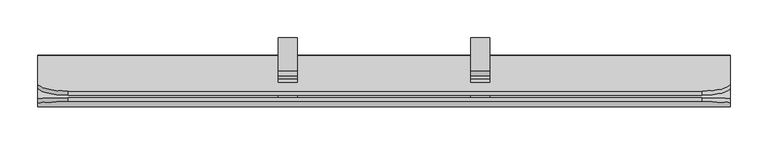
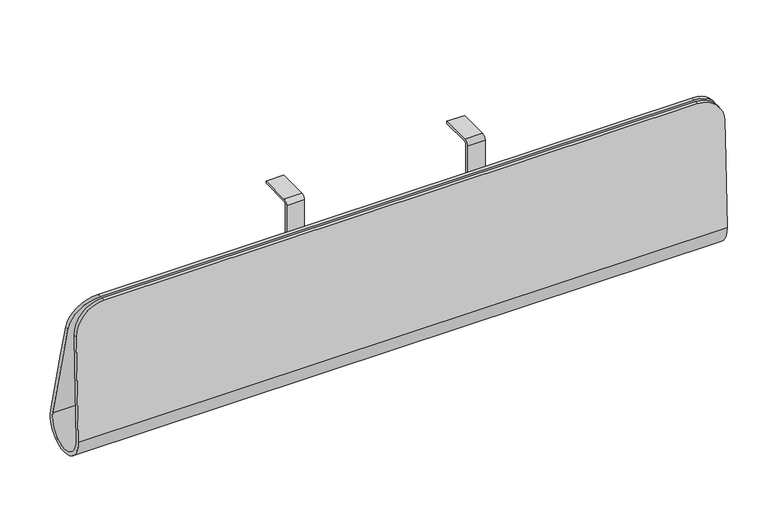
"""IFC4 building model written with IfcOpenShell, lengths in millimetres: furniture geometry, Steelcase Turnstone - Bivi - Soft Cable Drop : 36W x 11H."""

from ifc_helpers import new_model, si_unit, point, frame, frame_2d, origin, place, context, project, spatial, polyline, circle_curve, ellipse_curve, trimmed, segment, composite_curve, outline, extrude, source, transform, mapped, element, save
from ifc_brep_helpers import plane_surface, cylinder_surface, revolved_surface, advanced_brep


def furniture_a9377d5e(model_context):
    return source(origin(), model_context, "Body", "SolidModel", [
        extrude(outline(composite_curve([segment(polyline([(-33.3815971, 695.5738947), (-76.9351284, 695.5738947)]), True, "CONTINUOUS"), segment(trimmed(circle_curve(frame_2d((-76.9351284, 692.219915)), 3.3539797), [point((-76.9351284, 695.5738947))], [point((-80.2891081, 692.219915))], True, "CARTESIAN"), True, "CONTINUOUS"), segment(polyline([(-80.2891081, 692.219915), (-80.2891081, 626.9360785)]), True, "CONTINUOUS"), segment(trimmed(circle_curve(frame_2d((-86.6323983, 626.9360785)), 6.3432901), [point((-80.2891081, 626.9360785))], [point((-86.6323983, 620.5927883))], False, "CARTESIAN"), True, "CONTINUOUS"), segment(polyline([(-86.6323983, 620.5927883), (-100.5256574, 620.5927883)]), True, "CONTINUOUS"), segment(trimmed(circle_curve(frame_2d((-100.5256574, 629.9560246)), 9.3632363), [point((-100.5256574, 620.5927883))], [point((-107.4309733, 623.6325124))], False, "CARTESIAN"), True, "CONTINUOUS"), segment(polyline([(-107.4309733, 623.6325124), (-117.7964919, 641.5861173), (-114.7522656, 643.3437021), (-104.386747, 625.3900972)]), True, "CONTINUOUS"), segment(trimmed(circle_curve(frame_2d((-101.6045306, 626.9964106)), 3.2126268), [point((-104.386747, 625.3900972))], [point((-101.614696, 623.7837999))], True, "CARTESIAN"), True, "CONTINUOUS"), segment(polyline([(-101.614696, 623.7837999), (-87.5440565, 623.7837999)]), True, "CONTINUOUS"), segment(trimmed(circle_curve(frame_2d((-87.5440565, 627.8477185)), 4.0639185), [point((-87.5440565, 623.7837999))], [point((-83.4801379, 627.8477185))], True, "CARTESIAN"), True, "CONTINUOUS"), segment(polyline([(-83.4801379, 627.8477185), (-83.4801379, 692.4149063)]), True, "CONTINUOUS"), segment(trimmed(circle_curve(frame_2d((-77.1301379, 692.4149063)), 6.35), [point((-83.4801379, 692.4149063))], [point((-77.1301379, 698.7649063))], False, "CARTESIAN"), True, "CONTINUOUS"), segment(polyline([(-77.1301379, 698.7649063), (-33.3815971, 698.7649063), (-33.3815971, 695.5738947)]), True, "CONTINUOUS")], self_intersect=False)), frame((572.0103547, 0.0, 0.0), z_axis=(1.0, 0.0, 0.0), x_axis=(0.0, 1.0, 0.0)), (0.0, 0.0, 1.0), 25.061043),
        extrude(outline(composite_curve([segment(polyline([(-33.3815971, 695.5738947), (-76.9351284, 695.5738947)]), True, "CONTINUOUS"), segment(trimmed(circle_curve(frame_2d((-76.9351284, 692.219915)), 3.3539797), [point((-76.9351284, 695.5738947))], [point((-80.2891081, 692.219915))], True, "CARTESIAN"), True, "CONTINUOUS"), segment(polyline([(-80.2891081, 692.219915), (-80.2891081, 626.9360785)]), True, "CONTINUOUS"), segment(trimmed(circle_curve(frame_2d((-86.6323983, 626.9360785)), 6.3432901), [point((-80.2891081, 626.9360785))], [point((-86.6323983, 620.5927883))], False, "CARTESIAN"), True, "CONTINUOUS"), segment(polyline([(-86.6323983, 620.5927883), (-100.5256574, 620.5927883)]), True, "CONTINUOUS"), segment(trimmed(circle_curve(frame_2d((-100.5256574, 629.9560246)), 9.3632363), [point((-100.5256574, 620.5927883))], [point((-107.4309733, 623.6325124))], False, "CARTESIAN"), True, "CONTINUOUS"), segment(polyline([(-107.4309733, 623.6325124), (-117.7964919, 641.5861173), (-114.7522656, 643.3437021), (-104.386747, 625.3900972)]), True, "CONTINUOUS"), segment(trimmed(circle_curve(frame_2d((-101.6045306, 626.9964106)), 3.2126268), [point((-104.386747, 625.3900972))], [point((-101.614696, 623.7837999))], True, "CARTESIAN"), True, "CONTINUOUS"), segment(polyline([(-101.614696, 623.7837999), (-87.5440565, 623.7837999)]), True, "CONTINUOUS"), segment(trimmed(circle_curve(frame_2d((-87.5440565, 627.8477185)), 4.0639185), [point((-87.5440565, 623.7837999))], [point((-83.4801379, 627.8477185))], True, "CARTESIAN"), True, "CONTINUOUS"), segment(polyline([(-83.4801379, 627.8477185), (-83.4801379, 692.4149063)]), True, "CONTINUOUS"), segment(trimmed(circle_curve(frame_2d((-77.1301379, 692.4149063)), 6.35), [point((-83.4801379, 692.4149063))], [point((-77.1301379, 698.7649063))], False, "CARTESIAN"), True, "CONTINUOUS"), segment(polyline([(-77.1301379, 698.7649063), (-33.3815971, 698.7649063), (-33.3815971, 695.5738947)]), True, "CONTINUOUS")], self_intersect=False)), frame((317.3286023, 0.0, 0.0), z_axis=(1.0, 0.0, 0.0), x_axis=(0.0, 1.0, 0.0)), (0.0, 0.0, 1.0), 25.061043),
        advanced_brep(
        [(40.3181575, -103.7425341, 669.4194647), (40.3181575, -108.9780589, 669.4194647), (876.6218425, -108.9780589, 669.4194647), (876.6218425, -103.7425341, 669.4194647), (40.3181575, -112.8163456, 669.4194647), (40.3181575, -117.8994495, 669.4194647), (876.6218425, -117.8994495, 669.4194647), (876.6218425, -112.8163456, 669.4194647), (914.4, -99.5589064, 631.6413072), (914.4, -94.3233815, 631.6413072), (914.4, -119.2186918, 631.6413072), (914.4, -114.1355879, 631.6413072), (0.0, -93.6900884, 629.1013072), (0.0, -98.9256132, 629.1013072), (0.0, -114.2242867, 629.1013072), (0.0, -119.3073906, 629.1013072), (914.4, -57.1774297, 482.657032), (0.0, -57.1774297, 482.657032), (0.0, -82.2895395, 583.3762033), (914.4, -88.1758082, 606.9847372), (0.0, -124.6690533, 475.5633765), (0.0, -120.9041464, 583.3762033), (0.0, -115.8210425, 583.3762033), (0.0, -119.5921405, 475.3860868), (0.0, -62.1065392, 481.4280669), (0.0, -87.5250644, 583.3762033), (914.4, -62.1065392, 481.4280669), (914.4, -93.411333, 606.9847372), (914.4, -119.5921405, 475.3860868), (914.4, -114.9966143, 606.9847372), (914.4, -120.0797182, 606.9847372), (914.4, -124.6690533, 475.5633765)],
        [
            (0, 1),
            (1, 2),
            (2, 3),
            (3, 0),
            (4, 5),
            (5, 6),
            (6, 7),
            (7, 4),
            (2, 8, ellipse_curve(frame((876.6218425, -99.5589064, 631.6413072), z_axis=(0.0, 0.9702957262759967, 0.24192189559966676), x_axis=(0.0, 0.24192189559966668, -0.9702957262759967)), 38.934684, 37.7781575)),
            (8, 9),
            (9, 3, ellipse_curve(frame((876.6218425, -94.3233815, 631.6413072), z_axis=(0.0, -0.9702957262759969, -0.24192189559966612), x_axis=(0.0, 0.2419218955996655, -0.9702957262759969)), 38.934684, 37.7781575)),
            (6, 10, ellipse_curve(frame((876.6218425, -119.2186918, 631.6413072), z_axis=(0.0, 0.9993908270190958, -0.03489949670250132), x_axis=(0.0, 0.034899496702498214, 0.9993908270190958)), 37.801185, 37.7781575)),
            (10, 11),
            (11, 7, ellipse_curve(frame((876.6218425, -114.1355879, 631.6413072), z_axis=(0.0, -0.9993908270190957, 0.034899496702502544), x_axis=(0.0, 0.034899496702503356, 0.9993908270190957)), 37.801185, 37.7781575)),
            (0, 12, ellipse_curve(frame((40.3181575, -93.6900884, 629.1013072), z_axis=(0.0, -0.9702957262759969, -0.24192189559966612), x_axis=(0.0, 0.2419218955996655, -0.9702957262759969)), 41.5524427, 40.3181575)),
            (12, 13),
            (13, 1, ellipse_curve(frame((40.3181575, -98.9256132, 629.1013072), z_axis=(0.0, 0.9702957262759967, 0.24192189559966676), x_axis=(0.0, 0.24192189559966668, -0.9702957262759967)), 41.5524427, 40.3181575)),
            (4, 14, ellipse_curve(frame((40.3181575, -114.2242867, 629.1013072), z_axis=(0.0, -0.9993908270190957, 0.034899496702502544), x_axis=(0.0, 0.034899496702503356, 0.9993908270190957)), 40.3427332, 40.3181575)),
            (14, 15),
            (15, 5, ellipse_curve(frame((40.3181575, -119.3073906, 629.1013072), z_axis=(0.0, 0.9993908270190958, -0.03489949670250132), x_axis=(0.0, 0.034899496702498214, 0.9993908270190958)), 40.3427332, 40.3181575)),
            (16, 17),
            (17, 18),
            (18, 12),
            (9, 19),
            (19, 16),
            (17, 20, circle_curve(frame((0.0, -90.4247674, 474.3675397), z_axis=(-1.0, 0.0, 0.0), x_axis=(0.0, 0.9702957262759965, 0.2419218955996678)), 34.2651593)),
            (20, 21),
            (21, 15),
            (14, 22),
            (22, 23),
            (23, 24, circle_curve(frame((0.0, -90.4247674, 474.3675397), z_axis=(1.0, 0.0, 0.0), x_axis=(0.0, 0.9702957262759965, 0.2419218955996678)), 29.1851519)),
            (24, 25),
            (25, 13),
            (24, 26),
            (26, 27),
            (27, 8),
            (26, 28, circle_curve(frame((914.4, -90.4247674, 474.3675397), z_axis=(-1.0, 0.0, 0.0), x_axis=(0.0, 0.9702957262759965, 0.2419218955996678)), 29.1851519)),
            (28, 29),
            (29, 11),
            (10, 30),
            (30, 31),
            (31, 16, circle_curve(frame((914.4, -90.4247674, 474.3675397), z_axis=(1.0, 0.0, 0.0), x_axis=(0.0, 0.9702957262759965, 0.2419218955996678)), 34.2651593)),
            (20, 31),
            (28, 23),
        ],
        [
            plane_surface(frame((40.3181575, -251.206, 669.4194647), z_axis=(0.0, 0.0, 1.0), x_axis=(0.0, 1.0, 0.0))),
            cylinder_surface(frame((876.6218425, 0.0, 631.6413072), z_axis=(0.0, 1.0, 0.0), x_axis=(1.0, 0.0, 0.0)), 37.7781575),
            cylinder_surface(frame((40.3181575, 0.0, 629.1013072), z_axis=(0.0, 1.0, 0.0), x_axis=(1.0, 0.0, 0.0)), 40.3181575),
            plane_surface(frame((914.4, -104.7476671, 673.4508331), z_axis=(0.0, 0.9702957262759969, 0.24192189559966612), x_axis=(0.0, 0.24192189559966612, -0.9702957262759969))),
            plane_surface(frame((0.0, -104.7476671, 673.4508331), z_axis=(-1.0, 0.0, 0.0), x_axis=(0.0, 0.2419218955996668, -0.9702957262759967))),
            plane_surface(frame((0.0, -109.6767766, 672.221868), z_axis=(0.0, -0.9702957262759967, -0.24192189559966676), x_axis=(0.0, 0.24192189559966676, -0.9702957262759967))),
            plane_surface(frame((914.4, -109.6767766, 672.221868), z_axis=(1.0, 0.0, 0.0), x_axis=(0.0, 0.24192189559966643, -0.9702957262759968))),
            plane_surface(frame((914.4, -124.6690533, 475.5633765), z_axis=(0.0, -0.9993908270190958, 0.03489949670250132), x_axis=(0.0, 0.03489949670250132, 0.9993908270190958))),
            plane_surface(frame((0.0, -119.5921405, 475.3860868), z_axis=(0.0, 0.9993908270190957, -0.034899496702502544), x_axis=(0.0, 0.034899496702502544, 0.9993908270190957))),
            cylinder_surface(frame((0.0, -90.4247674, 474.3675397), z_axis=(-1.0, 0.0, 0.0), x_axis=(0.0, 0.9702957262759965, 0.2419218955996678)), 34.2651593),
            revolved_surface(polyline([(0.0, -62.10653924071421, 481.42806697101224), (914.4, -62.10653924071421, 481.42806697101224)]), (0.0, -90.4247674, 474.3675397), (-1.0, 0.0, 0.0)),
        ],
        [
            (0, [[1, 2, 3, 4]]),
            (0, [[5, 6, 7, 8]]),
            (1, [[-3, 9, 10, 11]]),
            (1, [[-7, 12, 13, 14]]),
            (2, [[-1, 15, 16, 17]]),
            (2, [[-5, 18, 19, 20]]),
            (3, [[21, 22, 23, -15, -4, -11, 24, 25]]),
            (4, [[26, 27, 28, -19, 29, 30, 31, 32, 33, -16, -23, -22]]),
            (5, [[34, 35, 36, -9, -2, -17, -33, -32]]),
            (6, [[37, 38, 39, -13, 40, 41, 42, -25, -24, -10, -36, -35]]),
            (7, [[43, -41, -40, -12, -6, -20, -28, -27]]),
            (8, [[44, -30, -29, -18, -8, -14, -39, -38]]),
            (9, [[-21, -42, -43, -26]]),
            (10, [[-31, -44, -37, -34]]),
        ],
    ),
    ])


if __name__ == "__main__":
    model = new_model("IFC4")
    model_context = context("Model", 3, world=origin())
    ifc_project = project(units=[si_unit("LENGTHUNIT", "METRE", prefix="MILLI")], contexts=[model_context])
    site = spatial("IfcSite", under=ifc_project)
    building = spatial("IfcBuilding", under=site)
    placement = place(None, origin())
    furniture_shape = furniture_a9377d5e(model_context)
    element("IfcFurniture", 1, ObjectType="Steelcase Turnstone - Bivi - Soft Cable Drop : 36W x 11H", at=placement, inside=building, context=model_context, shape_type="MappedRepresentation", body=[
        mapped(furniture_shape, transform((0.0, 0.0, 0.0), x_axis=(1.0, 0.0, 0.0), y_axis=(0.0, 1.0, 0.0), z_axis=(0.0, 0.0, 1.0))),
    ])
    save(model, "model.ifc")
